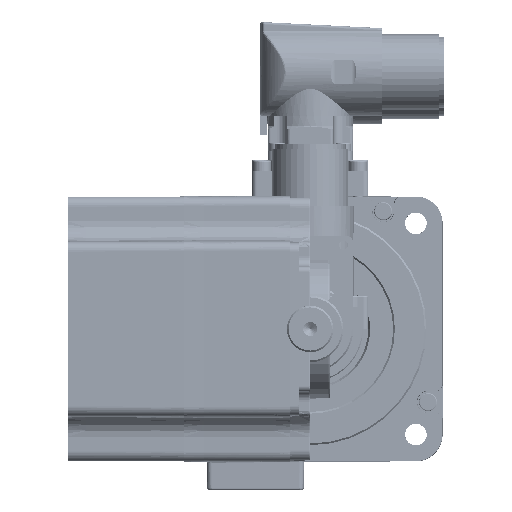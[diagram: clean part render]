
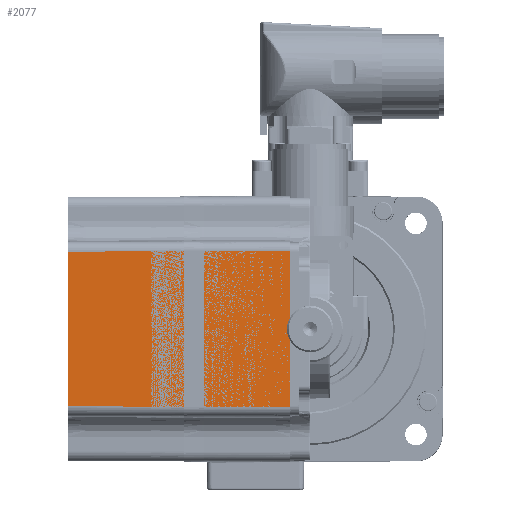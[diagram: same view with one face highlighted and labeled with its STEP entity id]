
A CAD part, front view. The second image highlights one B-rep face of the part: STEP entity #2077.
In plain terms, the highlighted planar face has unit normal (-0.003, -1, 0).
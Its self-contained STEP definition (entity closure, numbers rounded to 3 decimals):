
#2077 = ADVANCED_FACE( '', ( #5608 ), #5609, .T. );
#5608 = FACE_OUTER_BOUND( '', #11344, .T. );
#5609 = PLANE( '', #11345 );
#11344 = EDGE_LOOP( '', ( #19806, #19807, #19808, #19809 ) );
#11345 = AXIS2_PLACEMENT_3D( '', #19810, #19811, #19812 );
#19806 = ORIENTED_EDGE( '', *, *, #33326, .T. );
#19807 = ORIENTED_EDGE( '', *, *, #33327, .T. );
#19808 = ORIENTED_EDGE( '', *, *, #33328, .T. );
#19809 = ORIENTED_EDGE( '', *, *, #33329, .T. );
#19810 = CARTESIAN_POINT( '', ( -5., -40., 0. ) );
#19811 = DIRECTION( '', ( -0.003, -1., 0. ) );
#19812 = DIRECTION( '', ( 1., -0.003, 0. ) );
#33326 = EDGE_CURVE( '', #40222, #40223, #40224, .T. );
#33327 = EDGE_CURVE( '', #40223, #40225, #40226, .T. );
#33328 = EDGE_CURVE( '', #40225, #40227, #40228, .T. );
#33329 = EDGE_CURVE( '', #40227, #40222, #40229, .T. );
#40222 = VERTEX_POINT( '', #50193 );
#40223 = VERTEX_POINT( '', #50194 );
#40224 = LINE( '', #50195, #50196 );
#40225 = VERTEX_POINT( '', #50197 );
#40226 = LINE( '', #50198, #50199 );
#40227 = VERTEX_POINT( '', #50200 );
#40228 = LINE( '', #50201, #50202 );
#40229 = LINE( '', #50203, #50204 );
#50193 = CARTESIAN_POINT( '', ( -73., -39.802, -23.302 ) );
#50194 = CARTESIAN_POINT( '', ( -6., -39.997, -23.497 ) );
#50195 = CARTESIAN_POINT( '', ( -4.991, -40., -23.5 ) );
#50196 = VECTOR( '', #62591, 1000. );
#50197 = CARTESIAN_POINT( '', ( -6., -39.997, 23.497 ) );
#50198 = CARTESIAN_POINT( '', ( -6., -39.997, 0. ) );
#50199 = VECTOR( '', #62592, 1000. );
#50200 = CARTESIAN_POINT( '', ( -73., -39.802, 23.302 ) );
#50201 = CARTESIAN_POINT( '', ( -98.991, -39.727, 23.227 ) );
#50202 = VECTOR( '', #62593, 1000. );
#50203 = CARTESIAN_POINT( '', ( -73., -39.802, 0. ) );
#50204 = VECTOR( '', #62594, 1000. );
#62591 = DIRECTION( '', ( 1., -0.003, -0.003 ) );
#62592 = DIRECTION( '', ( 0., 0., 1. ) );
#62593 = DIRECTION( '', ( -1., 0.003, -0.003 ) );
#62594 = DIRECTION( '', ( 0., 0., -1. ) );
